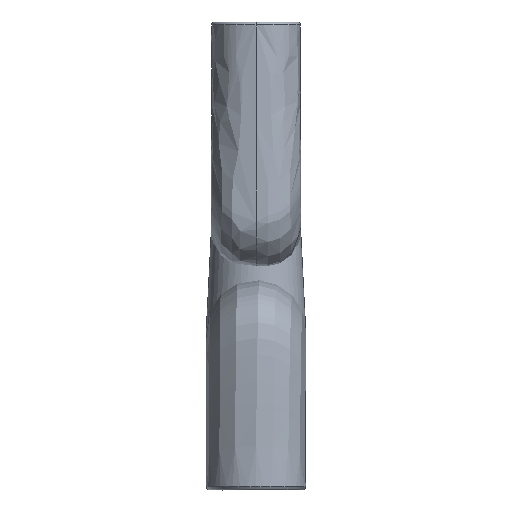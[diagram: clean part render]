
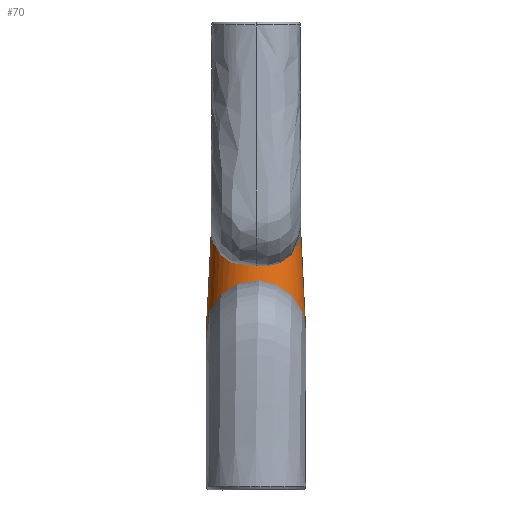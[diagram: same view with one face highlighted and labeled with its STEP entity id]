
A CAD part, left-side view. The second image highlights one B-rep face of the part: STEP entity #70.
In plain terms, the highlighted free-form (B-spline) face has degree [2, 1] with [5, 2] control points.
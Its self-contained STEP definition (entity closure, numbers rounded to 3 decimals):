
#70=ADVANCED_FACE('',(#211),#1578,.T.);
#211=FACE_OUTER_BOUND('',#352,.T.);
#352=EDGE_LOOP('',(#495,#496,#497,#498));
#495=ORIENTED_EDGE('',*,*,#1094,.T.);
#496=ORIENTED_EDGE('',*,*,#1096,.T.);
#497=ORIENTED_EDGE('',*,*,#1092,.F.);
#498=ORIENTED_EDGE('',*,*,#1091,.T.);
#1091=EDGE_CURVE('',#1403,#1405,#1716,.T.);
#1092=EDGE_CURVE('',#1403,#1404,#1717,.T.);
#1094=EDGE_CURVE('',#1405,#1406,#1719,.T.);
#1096=EDGE_CURVE('',#1406,#1404,#1721,.T.);
#1403=VERTEX_POINT('',#2160);
#1404=VERTEX_POINT('',#2161);
#1405=VERTEX_POINT('',#2162);
#1406=VERTEX_POINT('',#2163);
#1578=(
BOUNDED_SURFACE()
B_SPLINE_SURFACE(2,1,((#2140,#2141),(#2142,#2143),(#2144,#2145),(#2146,
#2147),(#2148,#2149)),.UNSPECIFIED.,.F.,.F.,.F.)
B_SPLINE_SURFACE_WITH_KNOTS((3,2,3),(2,2),(0.,79.166,158.332),
(0.,106.943),.UNSPECIFIED.)
GEOMETRIC_REPRESENTATION_ITEM()
RATIONAL_B_SPLINE_SURFACE(((1.,1.),(0.707,0.707),
(1.,1.),(0.707,0.707),(1.,1.)))
REPRESENTATION_ITEM('')
SURFACE()
);
#1716=(
BOUNDED_CURVE()
B_SPLINE_CURVE(2,(#2164,#2165,#2166,#2167,#2168),.UNSPECIFIED.,.F.,.F.)
B_SPLINE_CURVE_WITH_KNOTS((3,2,3),(0.,79.166,158.332),
 .UNSPECIFIED.)
CURVE()
GEOMETRIC_REPRESENTATION_ITEM()
RATIONAL_B_SPLINE_CURVE((1.,0.707,1.,0.707,1.))
REPRESENTATION_ITEM('')
);
#1717=(
BOUNDED_CURVE()
B_SPLINE_CURVE(1,(#2169,#2170),.UNSPECIFIED.,.F.,.F.)
B_SPLINE_CURVE_WITH_KNOTS((2,2),(0.,106.943),.UNSPECIFIED.)
CURVE()
GEOMETRIC_REPRESENTATION_ITEM()
RATIONAL_B_SPLINE_CURVE((1.,1.))
REPRESENTATION_ITEM('')
);
#1719=(
BOUNDED_CURVE()
B_SPLINE_CURVE(1,(#2176,#2177),.UNSPECIFIED.,.F.,.F.)
B_SPLINE_CURVE_WITH_KNOTS((2,2),(0.,106.943),.UNSPECIFIED.)
CURVE()
GEOMETRIC_REPRESENTATION_ITEM()
RATIONAL_B_SPLINE_CURVE((1.,1.))
REPRESENTATION_ITEM('')
);
#1721=(
BOUNDED_CURVE()
B_SPLINE_CURVE(2,(#2183,#2184,#2185,#2186,#2187),.UNSPECIFIED.,.F.,.F.)
B_SPLINE_CURVE_WITH_KNOTS((3,2,3),(-158.332,-79.166,0.),
 .UNSPECIFIED.)
CURVE()
GEOMETRIC_REPRESENTATION_ITEM()
RATIONAL_B_SPLINE_CURVE((1.,0.707,1.,0.707,1.))
REPRESENTATION_ITEM('')
);
#2140=CARTESIAN_POINT('',(-7830.36,1428.748,264.9));
#2141=CARTESIAN_POINT('',(-7830.643,1434.094,158.093));
#2142=CARTESIAN_POINT('',(-7875.37,1429.029,264.9));
#2143=CARTESIAN_POINT('',(-7881.041,1434.094,158.093));
#2144=CARTESIAN_POINT('',(-7875.653,1384.375,264.9));
#2145=CARTESIAN_POINT('',(-7881.041,1384.094,158.093));
#2146=CARTESIAN_POINT('',(-7875.936,1339.721,264.9));
#2147=CARTESIAN_POINT('',(-7881.041,1334.094,158.093));
#2148=CARTESIAN_POINT('',(-7830.926,1339.44,264.9));
#2149=CARTESIAN_POINT('',(-7830.643,1334.094,158.093));
#2160=CARTESIAN_POINT('',(-7830.36,1428.748,264.9));
#2161=CARTESIAN_POINT('',(-7830.643,1434.094,158.093));
#2162=CARTESIAN_POINT('',(-7830.926,1339.44,264.9));
#2163=CARTESIAN_POINT('',(-7830.643,1334.094,158.093));
#2164=CARTESIAN_POINT('',(-7830.36,1428.748,264.9));
#2165=CARTESIAN_POINT('',(-7875.37,1429.029,264.9));
#2166=CARTESIAN_POINT('',(-7875.653,1384.375,264.9));
#2167=CARTESIAN_POINT('',(-7875.936,1339.721,264.9));
#2168=CARTESIAN_POINT('',(-7830.926,1339.44,264.9));
#2169=CARTESIAN_POINT('',(-7830.36,1428.748,264.9));
#2170=CARTESIAN_POINT('',(-7830.643,1434.094,158.093));
#2176=CARTESIAN_POINT('',(-7830.926,1339.44,264.9));
#2177=CARTESIAN_POINT('',(-7830.643,1334.094,158.093));
#2183=CARTESIAN_POINT('',(-7830.643,1334.094,158.093));
#2184=CARTESIAN_POINT('',(-7881.041,1334.094,158.093));
#2185=CARTESIAN_POINT('',(-7881.041,1384.094,158.093));
#2186=CARTESIAN_POINT('',(-7881.041,1434.094,158.093));
#2187=CARTESIAN_POINT('',(-7830.643,1434.094,158.093));
